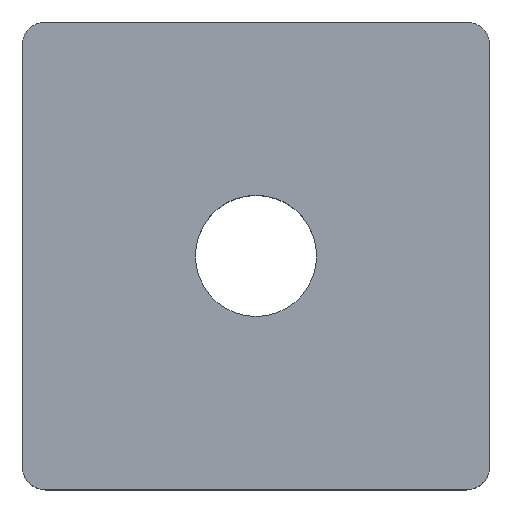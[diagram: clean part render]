
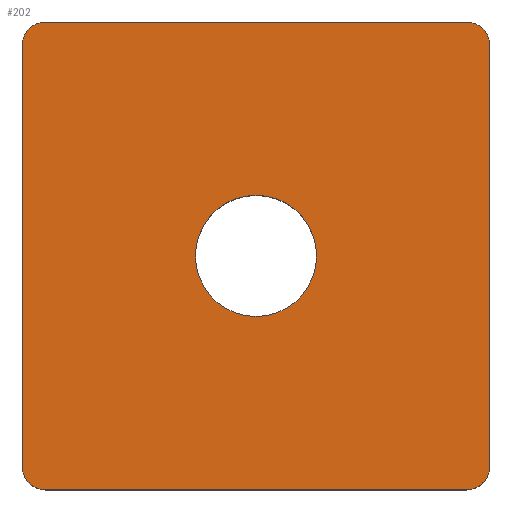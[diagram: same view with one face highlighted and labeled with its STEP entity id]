
A CAD part, top view. The second image highlights one B-rep face of the part: STEP entity #202.
In plain terms, the highlighted planar face has unit normal (0, 0, 1).
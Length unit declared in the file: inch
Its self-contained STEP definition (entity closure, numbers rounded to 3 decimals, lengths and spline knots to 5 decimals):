
#1=CARTESIAN_POINT('',(-0.35433,0.35433,0.17717));
#2=DIRECTION('',(0.,0.,1.));
#3=DIRECTION('',(0.,1.,0.));
#4=AXIS2_PLACEMENT_3D('',#1,#2,#3);
#6=CARTESIAN_POINT('',(0.35433,0.35433,0.17717));
#7=DIRECTION('',(0.,0.,1.));
#8=DIRECTION('',(1.,0.,0.));
#9=AXIS2_PLACEMENT_3D('',#6,#7,#8);
#11=CARTESIAN_POINT('',(0.35433,-0.35433,
0.17717));
#12=DIRECTION('',(0.,0.,1.));
#13=DIRECTION('',(0.,-1.,0.));
#14=AXIS2_PLACEMENT_3D('',#11,#12,#13);
#16=CARTESIAN_POINT('',(-0.35433,-0.35433,
0.17717));
#17=DIRECTION('',(0.,0.,1.));
#18=DIRECTION('',(-1.,0.,0.));
#19=AXIS2_PLACEMENT_3D('',#16,#17,#18);
#21=CARTESIAN_POINT('',(0.,0.,0.17717));
#22=DIRECTION('',(0.,0.,-1.));
#23=DIRECTION('',(-1.,0.,0.));
#24=AXIS2_PLACEMENT_3D('',#21,#22,#23);
#26=CARTESIAN_POINT('',(0.,0.,0.17717));
#27=DIRECTION('',(0.,0.,-1.));
#28=DIRECTION('',(1.,0.,0.));
#29=AXIS2_PLACEMENT_3D('',#26,#27,#28);
#31=DIRECTION('',(0.,1.,0.));
#32=VECTOR('',#31,0.70866);
#33=CARTESIAN_POINT('',(-0.3937,-0.35433,
0.17717));
#34=LINE('',#33,#32);
#81=DIRECTION('',(-1.,0.,0.));
#82=VECTOR('',#81,0.70866);
#83=CARTESIAN_POINT('',(0.35433,-0.3937,
0.17717));
#84=LINE('',#83,#82);
#93=DIRECTION('',(0.,-1.,0.));
#94=VECTOR('',#93,0.70866);
#95=CARTESIAN_POINT('',(0.3937,0.35433,0.17717));
#96=LINE('',#95,#94);
#105=DIRECTION('',(1.,0.,0.));
#106=VECTOR('',#105,0.70866);
#107=CARTESIAN_POINT('',(-0.35433,0.3937,
0.17717));
#108=LINE('',#107,#106);
#133=CARTESIAN_POINT('',(0.10201,0.,0.17717));
#135=VERTEX_POINT('',#133);
#137=CARTESIAN_POINT('',(-0.35433,0.3937,
0.17717));
#138=CARTESIAN_POINT('',(-0.3937,0.35433,
0.17717));
#139=VERTEX_POINT('',#137);
#140=VERTEX_POINT('',#138);
#141=CARTESIAN_POINT('',(0.3937,0.35433,
0.17717));
#142=CARTESIAN_POINT('',(0.3937,-0.35433,
0.17717));
#143=VERTEX_POINT('',#141);
#144=VERTEX_POINT('',#142);
#146=CARTESIAN_POINT('',(-0.35433,-0.3937,
0.17717));
#148=VERTEX_POINT('',#146);
#151=CARTESIAN_POINT('',(-0.10201,0.,0.17717));
#153=VERTEX_POINT('',#151);
#155=CARTESIAN_POINT('',(0.35433,0.3937,
0.17717));
#156=VERTEX_POINT('',#155);
#165=CARTESIAN_POINT('',(0.35433,-0.3937,
0.17717));
#166=VERTEX_POINT('',#165);
#169=CARTESIAN_POINT('',(-0.3937,-0.35433,
0.17717));
#170=VERTEX_POINT('',#169);
#173=CARTESIAN_POINT('',(0.,0.,0.17717));
#174=DIRECTION('',(0.,0.,-1.));
#175=DIRECTION('',(-1.,0.,0.));
#176=AXIS2_PLACEMENT_3D('',#173,#174,#175);
#177=PLANE('',#176);
#179=ORIENTED_EDGE('',*,*,#178,.T.);
#181=ORIENTED_EDGE('',*,*,#180,.F.);
#183=ORIENTED_EDGE('',*,*,#182,.T.);
#185=ORIENTED_EDGE('',*,*,#184,.F.);
#187=ORIENTED_EDGE('',*,*,#186,.T.);
#189=ORIENTED_EDGE('',*,*,#188,.F.);
#191=ORIENTED_EDGE('',*,*,#190,.T.);
#193=ORIENTED_EDGE('',*,*,#192,.F.);
#194=EDGE_LOOP('',(#179,#181,#183,#185,#187,#189,#191,#193));
#195=FACE_OUTER_BOUND('',#194,.F.);
#197=ORIENTED_EDGE('',*,*,#196,.F.);
#199=ORIENTED_EDGE('',*,*,#198,.F.);
#200=EDGE_LOOP('',(#197,#199));
#201=FACE_BOUND('',#200,.F.);
#5=CIRCLE('',#4,0.03937);
#10=CIRCLE('',#9,0.03937);
#15=CIRCLE('',#14,0.03937);
#20=CIRCLE('',#19,0.03937);
#25=CIRCLE('',#24,0.10201);
#30=CIRCLE('',#29,0.10201);
#178=EDGE_CURVE('',#170,#140,#34,.T.);
#180=EDGE_CURVE('',#139,#140,#5,.T.);
#182=EDGE_CURVE('',#139,#156,#108,.T.);
#184=EDGE_CURVE('',#143,#156,#10,.T.);
#186=EDGE_CURVE('',#143,#144,#96,.T.);
#188=EDGE_CURVE('',#166,#144,#15,.T.);
#190=EDGE_CURVE('',#166,#148,#84,.T.);
#192=EDGE_CURVE('',#170,#148,#20,.T.);
#196=EDGE_CURVE('',#153,#135,#25,.T.);
#198=EDGE_CURVE('',#135,#153,#30,.T.);
#202=ADVANCED_FACE('',(#195,#201),#177,.F.);
